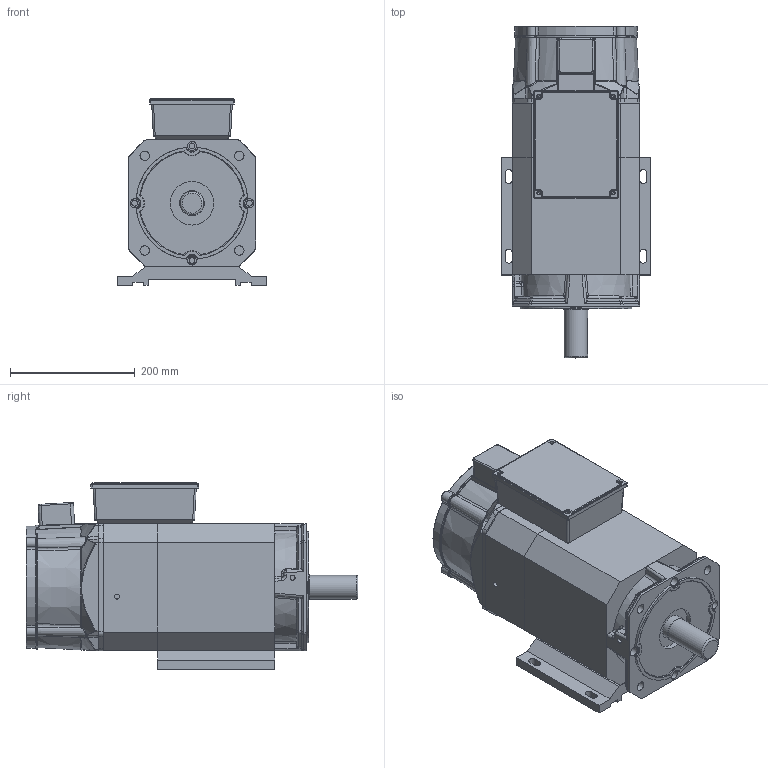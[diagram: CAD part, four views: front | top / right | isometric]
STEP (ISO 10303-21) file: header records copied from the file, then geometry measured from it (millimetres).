
FILE_DESCRIPTION(/* description */ (''),/* implementation_level */ '2;1');
FILE_NAME(/* name */ '204ZJY-4-5.5-15.stp',/* time_stamp */ '2024-01-15T16:57:34+08:00',/* author */ (''),/* organization */ (''),/* preprocessor_version */ 'ST-DEVELOPER v18.1',/* originating_system */ 'SIEMENS PLM Software NX 2000',/* authorisation */ '');
FILE_SCHEMA (('AUTOMOTIVE_DESIGN { 1 0 10303 214 3 1 1 1 }'));
Products named in the file (1): 204ZJY-4-2.2-15电机外形图
Bounding box: 240 x 533 x 300 mm (x, y, z)
Volume: 13363603 mm3; surface area: 1146862.9 mm2
Topology: 10 solids, 10 shells, 1906 faces, 4761 edges, 2835 vertices
Faces by surface type: cylinder 751, torus 447, plane 385, bspline 248, cone 63, sphere 12
Full cylindrical faces by diameter (mm): 4 x10, 5 x10, 6 x10, 6.5 x4, 7 x8, 7.5 x4, 8 x4, 9.5 x8, 11 x8, 13.5 x2, 14.5 x4, 15 x5, 28 x1, 38 x1, 39.8 x1, 40 x1, 70 x1, 187 x1
Entity records: 63129 total; most frequent: CARTESIAN_POINT 22071, ORIENTED_EDGE 9082, DIRECTION 7651, EDGE_CURVE 4541, AXIS2_PLACEMENT_3D 3196, VERTEX_POINT 2776, EDGE_LOOP 2167, ADVANCED_FACE 1906
